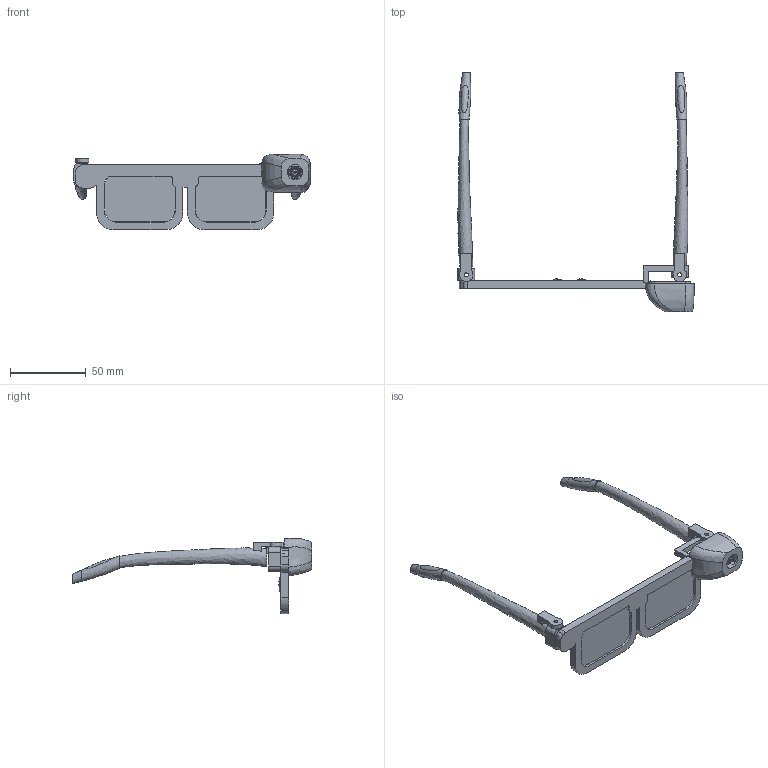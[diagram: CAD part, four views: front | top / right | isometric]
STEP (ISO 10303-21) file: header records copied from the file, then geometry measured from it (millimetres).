
FILE_DESCRIPTION(('FreeCAD Model'),'2;1');
FILE_NAME('Open CASCADE Shape Model','2026-10-29T21:44:06',('FreeCAD'),( 'FreeCAD'),'Open CASCADE STEP processor 7.8','FreeCAD','Unknown');
FILE_SCHEMA(('AUTOMOTIVE_DESIGN { 1 0 10303 214 1 1 1 1 }'));
Products named in the file (1): Open CASCADE STEP translator 7.8 1
Bounding box: 156.06 x 158.4 x 49.79 mm (x, y, z)
Volume: 39767.8 mm3; surface area: 38479.5 mm2
Topology: 113 solids, 120 shells, 3928 faces, 10642 edges, 6965 vertices
Faces by surface type: plane 3032, cylinder 767, bspline 59, cone 31, torus 26, sphere 13
Full cylindrical faces by diameter (mm): 0.5 x3, 0.6 x2, 0.75 x14, 1.5 x2, 1.524 x8, 1.72 x1, 1.8 x2, 1.86 x1, 2 x2, 2.7 x4, 5.3 x1, 6.32 x1, 6.5 x1, 7.85 x1, 10.2 x1
Entity records: 131511 total; most frequent: CARTESIAN_POINT 31515, ORIENTED_EDGE 21254, DIRECTION 19907, EDGE_CURVE 10627, LINE 8795, VECTOR 8795, VERTEX_POINT 6963, AXIS2_PLACEMENT_3D 5556
